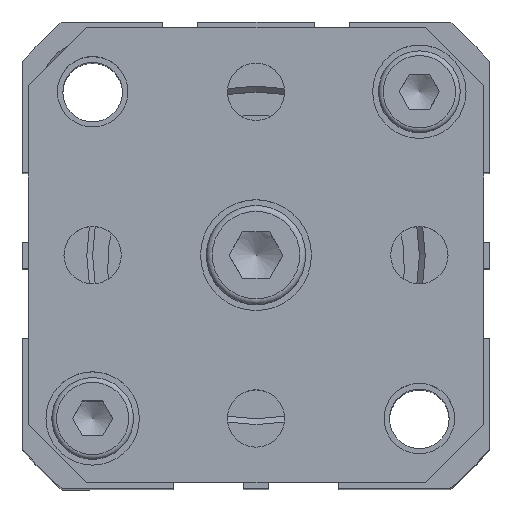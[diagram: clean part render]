
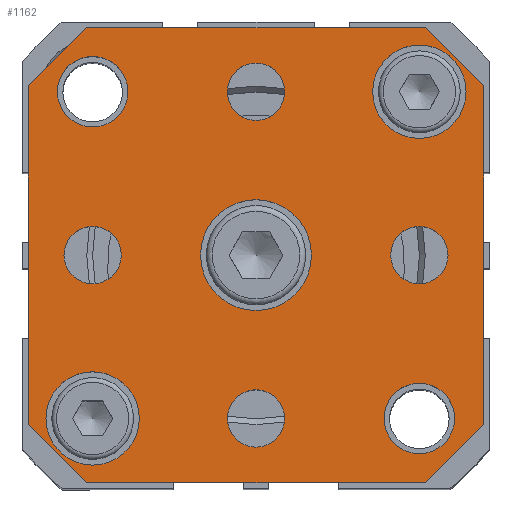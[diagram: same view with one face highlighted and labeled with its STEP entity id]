
A CAD part, top view. The second image highlights one B-rep face of the part: STEP entity #1162.
In plain terms, the highlighted planar face has unit normal (0, 0, 1).
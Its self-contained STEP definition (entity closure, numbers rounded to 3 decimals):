
#464=CARTESIAN_POINT('',(-12.524,-11.716,75.2));
#465=VERTEX_POINT('',#464);
#466=CARTESIAN_POINT('',(-16.524,-11.716,75.2));
#467=DIRECTION('',(0.0,0.0,-1.0));
#468=DIRECTION('',(1.0,0.0,0.0));
#469=AXIS2_PLACEMENT_3D('',#466,#467,#468);
#470=CIRCLE('',#469,4.0);
#471=EDGE_CURVE('',#465,#465,#470,.T.);
#566=CARTESIAN_POINT('',(15.476,16.284,75.2));
#567=VERTEX_POINT('',#566);
#568=CARTESIAN_POINT('',(11.476,16.284,75.2));
#569=DIRECTION('',(0.0,0.0,-1.0));
#570=DIRECTION('',(1.0,0.0,0.0));
#571=AXIS2_PLACEMENT_3D('',#568,#569,#570);
#572=CIRCLE('',#571,4.0);
#573=EDGE_CURVE('',#567,#567,#572,.T.);
#651=CARTESIAN_POINT('',(13.934,2.284,75.2));
#652=VERTEX_POINT('',#651);
#653=CARTESIAN_POINT('',(11.476,2.284,75.2));
#654=DIRECTION('',(0.0,0.0,-1.0));
#655=DIRECTION('',(1.0,0.0,0.0));
#656=AXIS2_PLACEMENT_3D('',#653,#654,#655);
#657=CIRCLE('',#656,2.459);
#658=EDGE_CURVE('',#652,#652,#657,.T.);
#692=CARTESIAN_POINT('',(-0.066,-11.716,75.2));
#693=VERTEX_POINT('',#692);
#694=CARTESIAN_POINT('',(-2.524,-11.716,75.2));
#695=DIRECTION('',(0.0,0.0,-1.0));
#696=DIRECTION('',(1.0,0.0,0.0));
#697=AXIS2_PLACEMENT_3D('',#694,#695,#696);
#698=CIRCLE('',#697,2.459);
#699=EDGE_CURVE('',#693,#693,#698,.T.);
#733=CARTESIAN_POINT('',(-14.066,2.284,75.2));
#734=VERTEX_POINT('',#733);
#735=CARTESIAN_POINT('',(-16.524,2.284,75.2));
#736=DIRECTION('',(0.0,0.0,-1.0));
#737=DIRECTION('',(1.0,0.0,0.0));
#738=AXIS2_PLACEMENT_3D('',#735,#736,#737);
#739=CIRCLE('',#738,2.459);
#740=EDGE_CURVE('',#734,#734,#739,.T.);
#774=CARTESIAN_POINT('',(-0.066,16.284,75.2));
#775=VERTEX_POINT('',#774);
#776=CARTESIAN_POINT('',(-2.524,16.284,75.2));
#777=DIRECTION('',(0.0,0.0,-1.0));
#778=DIRECTION('',(1.0,0.0,0.0));
#779=AXIS2_PLACEMENT_3D('',#776,#777,#778);
#780=CIRCLE('',#779,2.459);
#781=EDGE_CURVE('',#775,#775,#780,.T.);
#840=CARTESIAN_POINT('',(2.226,2.284,75.2));
#841=VERTEX_POINT('',#840);
#842=CARTESIAN_POINT('',(-2.524,2.284,75.2));
#843=DIRECTION('',(0.0,0.0,-1.0));
#844=DIRECTION('',(1.0,0.0,0.0));
#845=AXIS2_PLACEMENT_3D('',#842,#843,#844);
#846=CIRCLE('',#845,4.75);
#847=EDGE_CURVE('',#841,#841,#846,.T.);
#893=CARTESIAN_POINT('',(14.495,-11.716,75.2));
#894=VERTEX_POINT('',#893);
#895=CARTESIAN_POINT('',(11.476,-11.716,75.2));
#896=DIRECTION('',(0.0,0.0,-1.0));
#897=DIRECTION('',(-1.0,0.0,0.0));
#898=AXIS2_PLACEMENT_3D('',#895,#896,#897);
#899=CIRCLE('',#898,3.019);
#900=EDGE_CURVE('',#894,#894,#899,.T.);
#913=CARTESIAN_POINT('',(-13.505,16.284,75.2));
#914=VERTEX_POINT('',#913);
#915=CARTESIAN_POINT('',(-16.524,16.284,75.2));
#916=DIRECTION('',(0.0,0.0,-1.0));
#917=DIRECTION('',(-1.0,0.0,0.0));
#918=AXIS2_PLACEMENT_3D('',#915,#916,#917);
#919=CIRCLE('',#918,3.019);
#920=EDGE_CURVE('',#914,#914,#919,.T.);
#933=CARTESIAN_POINT('',(-17.024,21.784,75.2));
#934=VERTEX_POINT('',#933);
#935=CARTESIAN_POINT('',(11.976,21.784,75.2));
#936=VERTEX_POINT('',#935);
#937=CARTESIAN_POINT('',(-17.024,21.784,75.2));
#938=DIRECTION('',(1.0,0.0,0.0));
#939=VECTOR('',#938,29.);
#940=LINE('',#937,#939);
#941=EDGE_CURVE('',#934,#936,#940,.T.);
#964=CARTESIAN_POINT('',(16.976,16.784,75.2));
#965=VERTEX_POINT('',#964);
#966=CARTESIAN_POINT('',(11.976,21.784,75.2));
#967=DIRECTION('',(0.707,-0.707,0.0));
#968=VECTOR('',#967,7.071);
#969=LINE('',#966,#968);
#970=EDGE_CURVE('',#936,#965,#969,.T.);
#988=CARTESIAN_POINT('',(16.976,-12.216,75.2));
#989=VERTEX_POINT('',#988);
#990=CARTESIAN_POINT('',(16.976,16.784,75.2));
#991=DIRECTION('',(0.0,-1.0,0.0));
#992=VECTOR('',#991,29.);
#993=LINE('',#990,#992);
#994=EDGE_CURVE('',#965,#989,#993,.T.);
#1012=CARTESIAN_POINT('',(11.976,-17.216,75.2));
#1013=VERTEX_POINT('',#1012);
#1014=CARTESIAN_POINT('',(16.976,-12.216,75.2));
#1015=DIRECTION('',(-0.707,-0.707,0.0));
#1016=VECTOR('',#1015,7.071);
#1017=LINE('',#1014,#1016);
#1018=EDGE_CURVE('',#989,#1013,#1017,.T.);
#1036=CARTESIAN_POINT('',(-17.024,-17.216,75.2));
#1037=VERTEX_POINT('',#1036);
#1038=CARTESIAN_POINT('',(11.976,-17.216,75.2));
#1039=DIRECTION('',(-1.0,0.0,0.0));
#1040=VECTOR('',#1039,29.);
#1041=LINE('',#1038,#1040);
#1042=EDGE_CURVE('',#1013,#1037,#1041,.T.);
#1060=CARTESIAN_POINT('',(-22.024,-12.216,75.2));
#1061=VERTEX_POINT('',#1060);
#1062=CARTESIAN_POINT('',(-17.024,-17.216,75.2));
#1063=DIRECTION('',(-0.707,0.707,0.0));
#1064=VECTOR('',#1063,7.071);
#1065=LINE('',#1062,#1064);
#1066=EDGE_CURVE('',#1037,#1061,#1065,.T.);
#1084=CARTESIAN_POINT('',(-22.024,16.784,75.2));
#1085=VERTEX_POINT('',#1084);
#1086=CARTESIAN_POINT('',(-22.024,-12.216,75.2));
#1087=DIRECTION('',(0.0,1.0,0.0));
#1088=VECTOR('',#1087,29.);
#1089=LINE('',#1086,#1088);
#1090=EDGE_CURVE('',#1061,#1085,#1089,.T.);
#1108=CARTESIAN_POINT('',(-22.024,16.784,75.2));
#1109=DIRECTION('',(0.707,0.707,0.0));
#1110=VECTOR('',#1109,7.071);
#1111=LINE('',#1108,#1110);
#1112=EDGE_CURVE('',#1085,#934,#1111,.T.);
#1120=CARTESIAN_POINT('',(-2.524,2.284,75.2));
#1121=DIRECTION('',(0.0,0.0,1.0));
#1122=DIRECTION('',(1.0,0.0,0.0));
#1123=AXIS2_PLACEMENT_3D('',#1120,#1121,#1122);
#1124=PLANE('',#1123);
#1125=ORIENTED_EDGE('',*,*,#941,.F.);
#1126=ORIENTED_EDGE('',*,*,#1112,.F.);
#1127=ORIENTED_EDGE('',*,*,#1090,.F.);
#1128=ORIENTED_EDGE('',*,*,#1066,.F.);
#1129=ORIENTED_EDGE('',*,*,#1042,.F.);
#1130=ORIENTED_EDGE('',*,*,#1018,.F.);
#1131=ORIENTED_EDGE('',*,*,#994,.F.);
#1132=ORIENTED_EDGE('',*,*,#970,.F.);
#1133=EDGE_LOOP('',(#1125,#1126,#1127,#1128,#1129,#1130,#1131,#1132));
#1134=FACE_OUTER_BOUND('',#1133,.T.);
#1135=ORIENTED_EDGE('',*,*,#471,.T.);
#1136=EDGE_LOOP('',(#1135));
#1137=FACE_BOUND('',#1136,.T.);
#1138=ORIENTED_EDGE('',*,*,#573,.T.);
#1139=EDGE_LOOP('',(#1138));
#1140=FACE_BOUND('',#1139,.T.);
#1141=ORIENTED_EDGE('',*,*,#658,.T.);
#1142=EDGE_LOOP('',(#1141));
#1143=FACE_BOUND('',#1142,.T.);
#1144=ORIENTED_EDGE('',*,*,#699,.T.);
#1145=EDGE_LOOP('',(#1144));
#1146=FACE_BOUND('',#1145,.T.);
#1147=ORIENTED_EDGE('',*,*,#740,.T.);
#1148=EDGE_LOOP('',(#1147));
#1149=FACE_BOUND('',#1148,.T.);
#1150=ORIENTED_EDGE('',*,*,#781,.T.);
#1151=EDGE_LOOP('',(#1150));
#1152=FACE_BOUND('',#1151,.T.);
#1153=ORIENTED_EDGE('',*,*,#847,.T.);
#1154=EDGE_LOOP('',(#1153));
#1155=FACE_BOUND('',#1154,.T.);
#1156=ORIENTED_EDGE('',*,*,#900,.T.);
#1157=EDGE_LOOP('',(#1156));
#1158=FACE_BOUND('',#1157,.T.);
#1159=ORIENTED_EDGE('',*,*,#920,.T.);
#1160=EDGE_LOOP('',(#1159));
#1161=FACE_BOUND('',#1160,.T.);
#1162=ADVANCED_FACE('',(#1134,#1137,#1140,#1143,#1146,#1149,#1152,#1155,#1158,#1161),#1124,.T.);
